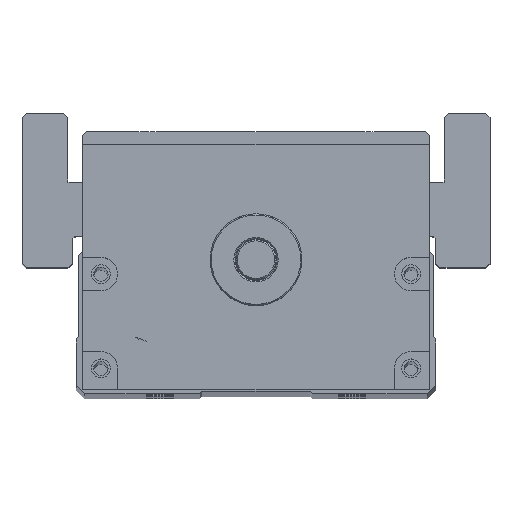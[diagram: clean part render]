
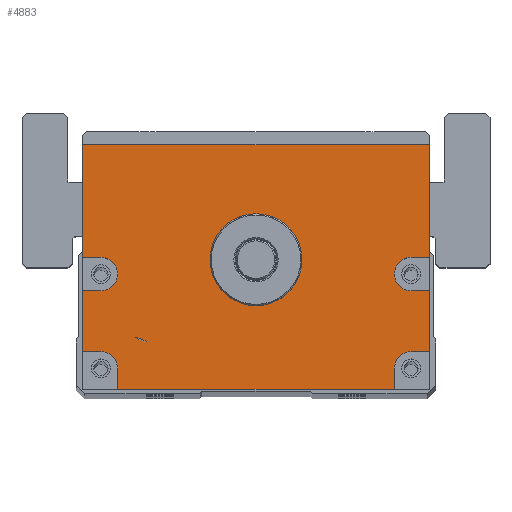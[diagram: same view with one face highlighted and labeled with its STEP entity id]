
A CAD part, top view. The second image highlights one B-rep face of the part: STEP entity #4883.
In plain terms, the highlighted planar face has unit normal (0, 0, 1).
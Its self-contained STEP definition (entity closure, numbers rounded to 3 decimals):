
#3499=FACE_BOUND('',#6543,.T.);
#3500=FACE_BOUND('',#6544,.T.);
#4017=CIRCLE('',#15078,11.);
#4028=CIRCLE('',#15092,4.);
#4029=CIRCLE('',#15093,4.);
#4030=CIRCLE('',#15094,4.);
#4031=CIRCLE('',#15095,4.);
#4883=ADVANCED_FACE('',(#3499,#3500),#5379,.T.);
#5379=PLANE('',#15096);
#6543=EDGE_LOOP('',(#8834,#8835,#8836,#8837,#8838,#8839,#8840,#8841,#8842,
#8843,#8844,#8845,#8846,#8847,#8848,#8849,#8850,#8851));
#6544=EDGE_LOOP('',(#8852));
#8834=ORIENTED_EDGE('',*,*,#12186,.F.);
#8835=ORIENTED_EDGE('',*,*,#12187,.T.);
#8836=ORIENTED_EDGE('',*,*,#12188,.F.);
#8837=ORIENTED_EDGE('',*,*,#12189,.F.);
#8838=ORIENTED_EDGE('',*,*,#12190,.F.);
#8839=ORIENTED_EDGE('',*,*,#12191,.T.);
#8840=ORIENTED_EDGE('',*,*,#12182,.T.);
#8841=ORIENTED_EDGE('',*,*,#12192,.T.);
#8842=ORIENTED_EDGE('',*,*,#12193,.F.);
#8843=ORIENTED_EDGE('',*,*,#12194,.F.);
#8844=ORIENTED_EDGE('',*,*,#12195,.F.);
#8845=ORIENTED_EDGE('',*,*,#12196,.T.);
#8846=ORIENTED_EDGE('',*,*,#12197,.F.);
#8847=ORIENTED_EDGE('',*,*,#12198,.F.);
#8848=ORIENTED_EDGE('',*,*,#12199,.F.);
#8849=ORIENTED_EDGE('',*,*,#12200,.T.);
#8850=ORIENTED_EDGE('',*,*,#12201,.F.);
#8851=ORIENTED_EDGE('',*,*,#12202,.F.);
#8852=ORIENTED_EDGE('',*,*,#12168,.T.);
#10770=VERTEX_POINT('',#21639);
#10783=VERTEX_POINT('',#21667);
#10784=VERTEX_POINT('',#21669);
#10787=VERTEX_POINT('',#21677);
#10788=VERTEX_POINT('',#21678);
#10789=VERTEX_POINT('',#21680);
#10790=VERTEX_POINT('',#21682);
#10791=VERTEX_POINT('',#21684);
#10792=VERTEX_POINT('',#21686);
#10793=VERTEX_POINT('',#21689);
#10794=VERTEX_POINT('',#21691);
#10795=VERTEX_POINT('',#21693);
#10796=VERTEX_POINT('',#21695);
#10797=VERTEX_POINT('',#21697);
#10798=VERTEX_POINT('',#21699);
#10799=VERTEX_POINT('',#21701);
#10800=VERTEX_POINT('',#21703);
#10801=VERTEX_POINT('',#21705);
#10802=VERTEX_POINT('',#21707);
#12168=EDGE_CURVE('',#10770,#10770,#4017,.T.);
#12182=EDGE_CURVE('',#10784,#10783,#13310,.T.);
#12186=EDGE_CURVE('',#10787,#10788,#13312,.T.);
#12187=EDGE_CURVE('',#10787,#10789,#13313,.T.);
#12188=EDGE_CURVE('',#10790,#10789,#13314,.T.);
#12189=EDGE_CURVE('',#10791,#10790,#4028,.T.);
#12190=EDGE_CURVE('',#10792,#10791,#13315,.T.);
#12191=EDGE_CURVE('',#10792,#10784,#13316,.T.);
#12192=EDGE_CURVE('',#10783,#10793,#13317,.T.);
#12193=EDGE_CURVE('',#10794,#10793,#13318,.T.);
#12194=EDGE_CURVE('',#10795,#10794,#4029,.T.);
#12195=EDGE_CURVE('',#10796,#10795,#13319,.T.);
#12196=EDGE_CURVE('',#10796,#10797,#13320,.T.);
#12197=EDGE_CURVE('',#10798,#10797,#13321,.T.);
#12198=EDGE_CURVE('',#10799,#10798,#4030,.T.);
#12199=EDGE_CURVE('',#10800,#10799,#13322,.T.);
#12200=EDGE_CURVE('',#10800,#10801,#13323,.T.);
#12201=EDGE_CURVE('',#10802,#10801,#13324,.T.);
#12202=EDGE_CURVE('',#10788,#10802,#4031,.T.);
#13310=LINE('',#21668,#14113);
#13312=LINE('',#21676,#14115);
#13313=LINE('',#21679,#14116);
#13314=LINE('',#21681,#14117);
#13315=LINE('',#21685,#14118);
#13316=LINE('',#21687,#14119);
#13317=LINE('',#21688,#14120);
#13318=LINE('',#21690,#14121);
#13319=LINE('',#21694,#14122);
#13320=LINE('',#21696,#14123);
#13321=LINE('',#21698,#14124);
#13322=LINE('',#21702,#14125);
#13323=LINE('',#21704,#14126);
#13324=LINE('',#21706,#14127);
#14113=VECTOR('',#17381,1.);
#14115=VECTOR('',#17389,1.);
#14116=VECTOR('',#17390,1.);
#14117=VECTOR('',#17391,1.);
#14118=VECTOR('',#17394,1.);
#14119=VECTOR('',#17395,1.);
#14120=VECTOR('',#17396,1.);
#14121=VECTOR('',#17397,1.);
#14122=VECTOR('',#17400,1.);
#14123=VECTOR('',#17401,1.);
#14124=VECTOR('',#17402,1.);
#14125=VECTOR('',#17405,1.);
#14126=VECTOR('',#17406,1.);
#14127=VECTOR('',#17407,1.);
#15078=AXIS2_PLACEMENT_3D('',#21638,#17354,#17355);
#15092=AXIS2_PLACEMENT_3D('',#21683,#17392,#17393);
#15093=AXIS2_PLACEMENT_3D('',#21692,#17398,#17399);
#15094=AXIS2_PLACEMENT_3D('',#21700,#17403,#17404);
#15095=AXIS2_PLACEMENT_3D('',#21708,#17408,#17409);
#15096=AXIS2_PLACEMENT_3D('',#21709,#17410,#17411);
#17354=DIRECTION('',(0.,0.,-1.));
#17355=DIRECTION('',(1.,0.,0.));
#17381=DIRECTION('',(-1.,0.,0.));
#17389=DIRECTION('',(-1.,0.,0.));
#17390=DIRECTION('',(0.,1.,0.));
#17391=DIRECTION('',(1.,0.,0.));
#17392=DIRECTION('',(0.,0.,1.));
#17393=DIRECTION('',(1.,0.,0.));
#17394=DIRECTION('',(-1.,0.,0.));
#17395=DIRECTION('',(0.,1.,0.));
#17396=DIRECTION('',(0.,-1.,0.));
#17397=DIRECTION('',(-1.,0.,0.));
#17398=DIRECTION('',(0.,0.,1.));
#17399=DIRECTION('',(1.,0.,0.));
#17400=DIRECTION('',(1.,0.,0.));
#17401=DIRECTION('',(0.,-1.,0.));
#17402=DIRECTION('',(-1.,0.,0.));
#17403=DIRECTION('',(0.,0.,1.));
#17404=DIRECTION('',(1.,0.,0.));
#17405=DIRECTION('',(0.,1.,0.));
#17406=DIRECTION('',(1.,0.,0.));
#17407=DIRECTION('',(0.,-1.,0.));
#17408=DIRECTION('',(0.,0.,1.));
#17409=DIRECTION('',(1.,0.,0.));
#17410=DIRECTION('',(0.,0.,1.));
#17411=DIRECTION('',(1.,0.,0.));
#21638=CARTESIAN_POINT('',(150.,0.,582.5));
#21639=CARTESIAN_POINT('',(161.,0.,582.5));
#21667=CARTESIAN_POINT('',(108.5,27.5,582.5));
#21668=CARTESIAN_POINT('',(191.5,27.5,582.5));
#21669=CARTESIAN_POINT('',(191.5,27.5,582.5));
#21676=CARTESIAN_POINT('',(191.5,-22.,582.5));
#21677=CARTESIAN_POINT('',(191.5,-22.,582.5));
#21678=CARTESIAN_POINT('',(187.115,-22.,582.5));
#21679=CARTESIAN_POINT('',(191.5,-31.,582.5));
#21680=CARTESIAN_POINT('',(191.5,-7.431,582.5));
#21681=CARTESIAN_POINT('',(191.5,-7.431,582.5));
#21682=CARTESIAN_POINT('',(187.115,-7.431,582.5));
#21683=CARTESIAN_POINT('',(187.115,-3.431,582.5));
#21684=CARTESIAN_POINT('',(187.115,0.569,582.5));
#21685=CARTESIAN_POINT('',(191.5,0.569,582.5));
#21686=CARTESIAN_POINT('',(191.5,0.569,582.5));
#21687=CARTESIAN_POINT('',(191.5,-31.,582.5));
#21688=CARTESIAN_POINT('',(108.5,27.5,582.5));
#21689=CARTESIAN_POINT('',(108.5,0.569,582.5));
#21690=CARTESIAN_POINT('',(191.5,0.569,582.5));
#21691=CARTESIAN_POINT('',(112.885,0.569,582.5));
#21692=CARTESIAN_POINT('',(112.885,-3.431,582.5));
#21693=CARTESIAN_POINT('',(112.885,-7.431,582.5));
#21694=CARTESIAN_POINT('',(191.5,-7.431,582.5));
#21695=CARTESIAN_POINT('',(108.5,-7.431,582.5));
#21696=CARTESIAN_POINT('',(108.5,27.5,582.5));
#21697=CARTESIAN_POINT('',(108.5,-22.,582.5));
#21698=CARTESIAN_POINT('',(191.5,-22.,582.5));
#21699=CARTESIAN_POINT('',(112.885,-22.,582.5));
#21700=CARTESIAN_POINT('',(112.885,-26.,582.5));
#21701=CARTESIAN_POINT('',(116.885,-26.,582.5));
#21702=CARTESIAN_POINT('',(116.885,-31.,582.5));
#21703=CARTESIAN_POINT('',(116.885,-31.,582.5));
#21704=CARTESIAN_POINT('',(108.5,-31.,582.5));
#21705=CARTESIAN_POINT('',(183.115,-31.,582.5));
#21706=CARTESIAN_POINT('',(183.115,-31.,582.5));
#21707=CARTESIAN_POINT('',(183.115,-26.,582.5));
#21708=CARTESIAN_POINT('',(187.115,-26.,582.5));
#21709=CARTESIAN_POINT('',(191.5,-31.,582.5));
